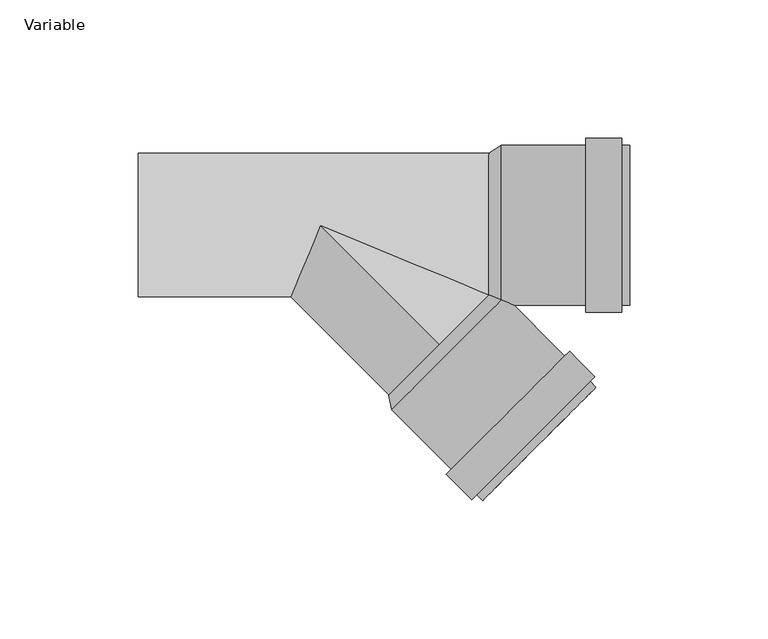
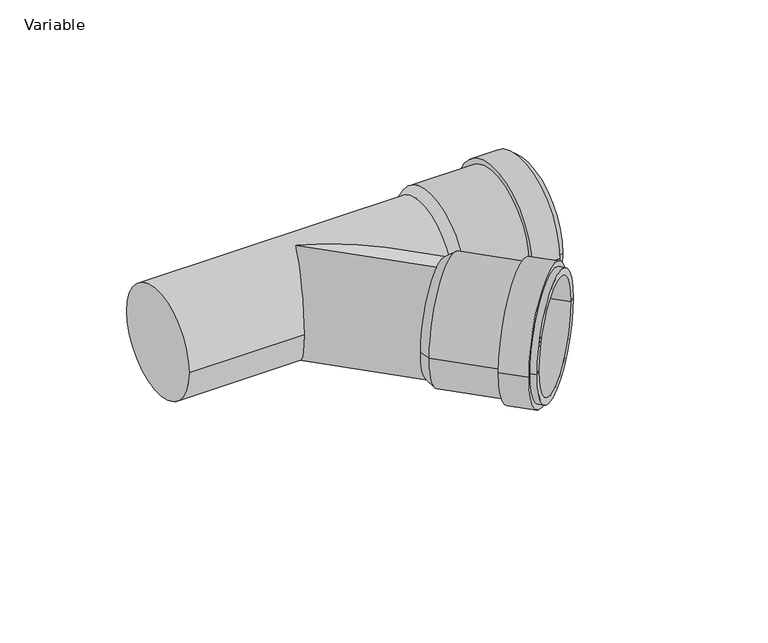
"""IFC4 building model written with IfcOpenShell, lengths in millimetres: pipe fitting geometry, AliaxisFR_Friaphon_Branch_FR : Variable."""

import ifcopenshell
import ifcopenshell.guid

model = None  # the IFC model being written
_history = None  # IfcOwnerHistory: only IFC2X3 demands one
_inside = {}  # id of a spatial element -> (the spatial element, [elements in it])
_under = {}  # id of a project, library or spatial element -> (it, [spatial elements below it])
_declared = {}  # id of a project -> (the project, [libraries it declares])
_typed = {}  # id of a type object -> (the type object, [elements of that type])
_made_of = {}  # id of a material, layer set ... -> (it, [elements and type objects made of it])


def new_model(schema):
    """Start an empty IFC model of exactly this schema.

    Asked for "IFC4X3", IfcOpenShell would pick the latest addendum, in which some entities
    have other attributes; the version numbers below select the first issue.
    IFC2X3 requires an IfcOwnerHistory on every rooted entity: one is made here for all.
    """
    global model, _history
    if schema == "IFC4X3":
        model = ifcopenshell.file(schema_version=(4, 3, 0, 0))
    else:
        model = ifcopenshell.file(schema=schema)
    _inside.clear()
    _under.clear()
    _declared.clear()
    _typed.clear()
    _made_of.clear()
    _history = None
    if model.schema == "IFC2X3":
        org = make("IfcOrganization", Name="unknown")
        user = make(
            "IfcPersonAndOrganization",
            ThePerson=make("IfcPerson", FamilyName="unknown"),
            TheOrganization=org,
        )
        app = make(
            "IfcApplication",
            ApplicationDeveloper=org,
            Version="unknown",
            ApplicationFullName="unknown",
            ApplicationIdentifier="unknown",
        )
        _history = make(
            "IfcOwnerHistory",
            OwningUser=user,
            OwningApplication=app,
            ChangeAction="ADDED",
            CreationDate=0,
        )
    return model


def make(cls, **values):
    """One entity of the class cls with the attributes given. An attribute that is None is left unset."""
    return model.create_entity(
        cls, **{name: value for name, value in values.items() if value is not None}
    )


def rooted(cls, **values):
    """An entity with a GlobalId (a new one), such as an element, a storey or a relation."""
    return make(cls, GlobalId=ifcopenshell.guid.new(), OwnerHistory=_history, **values)


def si_unit(unit_type, name, prefix=None):
    """IfcSIUnit, for example si_unit("LENGTHUNIT", "METRE", prefix="MILLI")."""
    return make("IfcSIUnit", UnitType=unit_type, Prefix=prefix, Name=name)


def assignment(units):
    """IfcUnitAssignment: the units of a project."""
    return None if units is None else make("IfcUnitAssignment", Units=units)


def point(xyz):
    """IfcCartesianPoint."""
    return None if xyz is None else make("IfcCartesianPoint", Coordinates=xyz)


def direction(xyz):
    """IfcDirection."""
    return None if xyz is None else make("IfcDirection", DirectionRatios=xyz)


def frame(location, z_axis=None, x_axis=None):
    """IfcAxis2Placement3D, a coordinate frame: its origin and axes. An axis left out is left unset."""
    return make(
        "IfcAxis2Placement3D",
        Location=point(location),
        Axis=direction(z_axis),
        RefDirection=direction(x_axis),
    )


def origin():
    """The frame at (0, 0, 0) with its axes left unset."""
    return frame((0.0, 0.0, 0.0))


def place(relative_to, where):
    """IfcLocalPlacement: puts the frame where relative to a parent placement (None: the world)."""
    return make(
        "IfcLocalPlacement", PlacementRelTo=relative_to, RelativePlacement=where
    )


def context(
    kind, dimensions, precision=None, world=None, true_north=None, identifier=None
):
    """IfcGeometricRepresentationContext, for example the 3D "Model" context."""
    return make(
        "IfcGeometricRepresentationContext",
        ContextIdentifier=identifier,
        ContextType=kind,
        CoordinateSpaceDimension=dimensions,
        Precision=precision,
        WorldCoordinateSystem=world,
        TrueNorth=true_north,
    )


def project(units=None, contexts=None):
    """IfcProject with its units and contexts."""
    return rooted(
        "IfcProject",
        Name="project",
        RepresentationContexts=contexts,
        UnitsInContext=assignment(units),
    )


def spatial(cls, under=None, at=None, **own):
    """A site, building, storey or space (cls), placed at a placement, below another one or the project."""
    s = rooted(cls, ObjectPlacement=at, **own)
    if under is not None:
        _under.setdefault(under.id(), (under, []))[1].append(s)
    return s


def polyline(points):
    """IfcPolyline through the points."""
    return make("IfcPolyline", Points=[point(p) for p in points])


def circle_curve(where, radius):
    """IfcCircle in the frame where."""
    return make("IfcCircle", Position=where, Radius=radius)


def ellipse_curve(where, semi_axis1, semi_axis2):
    """IfcEllipse in the frame where."""
    return make(
        "IfcEllipse", Position=where, SemiAxis1=semi_axis1, SemiAxis2=semi_axis2
    )


def shape(context_of_items, identifier, shape_type, items):
    """IfcShapeRepresentation: the items that make up one representation, for example the "Body"."""
    return make(
        "IfcShapeRepresentation",
        ContextOfItems=context_of_items,
        RepresentationIdentifier=identifier,
        RepresentationType=shape_type,
        Items=items,
    )


def source(mapping_origin, context_of_items, identifier, shape_type, items):
    """IfcRepresentationMap: a shape defined once, which mapped items show again and again."""
    return make(
        "IfcRepresentationMap",
        MappingOrigin=mapping_origin,
        MappedRepresentation=shape(context_of_items, identifier, shape_type, items),
    )


def transform(
    local_origin,
    x_axis=None,
    y_axis=None,
    z_axis=None,
    scale=None,
    scale2=None,
    scale3=None,
    uniform=True,
):
    """IfcCartesianTransformationOperator3D, or its non-uniform kind. x_axis, y_axis, z_axis: its Axis1, 2, 3."""
    if uniform:
        return make(
            "IfcCartesianTransformationOperator3D",
            Axis1=direction(x_axis),
            Axis2=direction(y_axis),
            LocalOrigin=point(local_origin),
            Scale=scale,
            Axis3=direction(z_axis),
        )
    return make(
        "IfcCartesianTransformationOperator3DnonUniform",
        Axis1=direction(x_axis),
        Axis2=direction(y_axis),
        LocalOrigin=point(local_origin),
        Scale=scale,
        Axis3=direction(z_axis),
        Scale2=scale2,
        Scale3=scale3,
    )


def mapped(mapping_source, mapping_target):
    """IfcMappedItem: shows the shape of a source again, moved by a transform."""
    return make(
        "IfcMappedItem", MappingSource=mapping_source, MappingTarget=mapping_target
    )


def made_of(thing, what):
    """Note that an element or type object is made of a material, layer set ...; save() writes the relation."""
    if what is not None:
        _made_of.setdefault(what.id(), (what, []))[1].append(thing)
    return thing


def element(
    cls,
    number,
    at=None,
    inside=None,
    cuts=None,
    type_object=None,
    material=None,
    context=None,
    identifier="Body",
    shape_type=None,
    held_by="IfcProductDefinitionShape",
    body=None,
    shapes=None,
    **own,
):
    """One element of the class cls, such as IfcWall. Its Tag is "e" and its number.

    at: its placement. inside: the storey or other place that contains it. cuts: it is an
    opening in that element (IfcRelVoidsElement). A single representation is given by context,
    identifier, shape_type and body (its items); several are given by shapes. held_by: the class
    of the entity that holds the representations. save() writes the other relations.
    """
    e = rooted(cls, Tag="e%d" % number, ObjectPlacement=at, **own)
    if body is not None:
        shapes = [shape(context, identifier, shape_type, body)]
    if shapes is not None:
        e.Representation = make(held_by, Representations=shapes)
    if inside is not None:
        _inside.setdefault(inside.id(), (inside, []))[1].append(e)
    if cuts is not None:
        rooted(
            "IfcRelVoidsElement", RelatingBuildingElement=cuts, RelatedOpeningElement=e
        )
    if type_object is not None:
        _typed.setdefault(type_object.id(), (type_object, []))[1].append(e)
    return made_of(e, material)


def aggregate(whole, parts):
    """IfcRelAggregates: a whole, such as a stair, and the parts it consists of."""
    return rooted("IfcRelAggregates", RelatingObject=whole, RelatedObjects=parts)


def save(model, path):
    """Write the relations noted so far, then the file.

    IfcRelAggregates (storeys below a building ...), IfcRelContainedInSpatialStructure (elements
    in a storey), IfcRelDefinesByType, IfcRelAssociatesMaterial and IfcRelDeclares: one each for
    every whole, place, type object, material and project.
    """
    for whole, parts in _under.values():
        aggregate(whole, parts)
    for where, things in _inside.values():
        rooted(
            "IfcRelContainedInSpatialStructure",
            RelatedElements=things,
            RelatingStructure=where,
        )
    for kind, things in _typed.values():
        rooted("IfcRelDefinesByType", RelatedObjects=things, RelatingType=kind)
    for what, things in _made_of.values():
        rooted("IfcRelAssociatesMaterial", RelatedObjects=things, RelatingMaterial=what)
    for by, libraries in _declared.values():
        rooted("IfcRelDeclares", RelatingContext=by, RelatedDefinitions=libraries)
    model.write(path)


def plane_surface(at):
    """IfcPlane: the flat surface through the origin of the frame at, square to its z axis."""
    return make("IfcPlane", Position=at)


def cylinder_surface(at, radius):
    """IfcCylindricalSurface: all points at the distance radius from the z axis of the frame at."""
    return make("IfcCylindricalSurface", Position=at, Radius=radius)


def revolved_surface(curve, axis_point, axis_direction):
    """IfcSurfaceOfRevolution: the curve turned about the line through axis_point along axis_direction."""
    return make(
        "IfcSurfaceOfRevolution",
        SweptCurve=make("IfcArbitraryOpenProfileDef", ProfileType="CURVE", Curve=curve),
        AxisPosition=make("IfcAxis1Placement", Location=point(axis_point), Axis=direction(axis_direction)),
    )


def advanced_brep(points, edges, surfaces, faces):
    """IfcAdvancedBrep: a solid bounded by faces that lie on surfaces and meet in shared edges.

    An edge is (start, end): straight between two places in points (the first is 0);
    or (start, end, curve); or (start, end, curve, False) where it runs against its curve.
    A face is (place in surfaces, loops), or (place, loops, False) where it looks against
    its surface's normal. A loop lists edges by number (the first is 1), with a minus sign
    where the edge is run from its end to its start. The first loop is the outer one.
    """
    corners = [point(p) for p in points]
    vertices = [make("IfcVertexPoint", VertexGeometry=c) for c in corners]
    made = []
    for start, end, *more in edges:
        made.append(
            make(
                "IfcEdgeCurve",
                EdgeStart=vertices[start],
                EdgeEnd=vertices[end],
                EdgeGeometry=more[0] if more else make("IfcPolyline", Points=[corners[start], corners[end]]),
                SameSense=more[1] if len(more) > 1 else True,
            )
        )
    hull = []
    for where, loops, *sense in faces:
        bounds = []
        for j, loop in enumerate(loops):
            ring = [make("IfcOrientedEdge", EdgeElement=made[abs(k) - 1], Orientation=k > 0) for k in loop]
            bounds.append(
                make(
                    "IfcFaceOuterBound" if j == 0 else "IfcFaceBound",
                    Bound=make("IfcEdgeLoop", EdgeList=ring),
                    Orientation=True,
                )
            )
        hull.append(make("IfcAdvancedFace", Bounds=bounds, FaceSurface=surfaces[where], SameSense=sense[0] if sense else True))
    return make("IfcAdvancedBrep", Outer=make("IfcClosedShell", CfsFaces=hull))


def variable_ae3fa9f9(model_context):
    return source(origin(), model_context, "Body", "AdvancedBrep", [
        advanced_brep(
        [(58.6898628, -99.7020561, 0.0), (99.7020561, -58.6898628, 0.0), (97.5807358, -60.8111832, 0.0), (60.8111832, -97.5807358, 0.0), (45.6083874, -90.1561146, 0.0), (90.1561146, -45.6083874, 0.0), (99.3485028, -54.8007755, 0.0), (54.8007755, -99.3485028, 0.0), (47.3761543, -88.3883476, 0.0), (88.3883476, -47.3761543, 0.0), (25.8093975, -66.8215908, 0.0), (66.8215908, -25.8093975, 0.0), (61.51829, -24.7487373, 0.0), (24.7487373, -61.51829, 0.0), (56.5685425, -97.5807358, 0.0), (97.5807358, -56.5685425, 0.0)],
        [
            (0, 1, circle_curve(frame((79.1959595, -79.1959595, 0.0), z_axis=(0.7071067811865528, -0.7071067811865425, 0.0), x_axis=(0.7071067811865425, 0.7071067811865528, 0.0)), 29.0)),
            (1, 2),
            (2, 3, circle_curve(frame((79.1959595, -79.1959595, 0.0), z_axis=(-0.7071067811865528, 0.7071067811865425, 0.0), x_axis=(0.7071067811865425, 0.7071067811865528, 0.0)), 26.0)),
            (3, 0),
            (1, 0, circle_curve(frame((79.1959595, -79.1959595, 0.0), z_axis=(0.7071067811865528, -0.7071067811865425, 0.0), x_axis=(0.7071067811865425, 0.7071067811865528, 0.0)), 29.0)),
            (3, 2, circle_curve(frame((79.1959595, -79.1959595, 0.0), z_axis=(-0.7071067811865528, 0.7071067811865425, 0.0), x_axis=(0.7071067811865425, 0.7071067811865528, 0.0)), 26.0)),
            (4, 5, circle_curve(frame((67.882251, -67.882251, 0.0), z_axis=(0.7071067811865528, -0.7071067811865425, 0.0), x_axis=(0.7071067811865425, 0.7071067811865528, 0.0)), 31.5)),
            (5, 6),
            (6, 7, circle_curve(frame((77.0746391, -77.0746391, 0.0), z_axis=(-0.7071067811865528, 0.7071067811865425, 0.0), x_axis=(0.7071067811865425, 0.7071067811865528, 0.0)), 31.5)),
            (7, 4),
            (5, 4, circle_curve(frame((67.882251, -67.882251, 0.0), z_axis=(0.7071067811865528, -0.7071067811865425, 0.0), x_axis=(0.7071067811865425, 0.7071067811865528, 0.0)), 31.5)),
            (7, 6, circle_curve(frame((77.0746391, -77.0746391, 0.0), z_axis=(-0.7071067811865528, 0.7071067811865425, 0.0), x_axis=(0.7071067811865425, 0.7071067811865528, 0.0)), 31.5)),
            (8, 9, circle_curve(frame((67.882251, -67.882251, 0.0), z_axis=(0.7071067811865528, -0.7071067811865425, 0.0), x_axis=(0.7071067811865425, 0.7071067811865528, 0.0)), 29.0)),
            (9, 5),
            (4, 8),
            (9, 8, circle_curve(frame((67.882251, -67.882251, 0.0), z_axis=(0.7071067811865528, -0.7071067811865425, 0.0), x_axis=(0.7071067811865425, 0.7071067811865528, 0.0)), 29.0)),
            (10, 11, circle_curve(frame((46.3154942, -46.3154942, 0.0), z_axis=(0.7071067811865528, -0.7071067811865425, 0.0), x_axis=(0.7071067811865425, 0.7071067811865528, 0.0)), 29.0)),
            (11, 9),
            (8, 10),
            (11, 10, circle_curve(frame((46.3154942, -46.3154942, 0.0), z_axis=(0.7071067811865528, -0.7071067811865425, 0.0), x_axis=(0.7071067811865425, 0.7071067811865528, 0.0)), 29.0)),
            (2, 12),
            (12, 13, circle_curve(frame((43.1335137, -43.1335137, 0.0), z_axis=(-0.7071067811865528, 0.7071067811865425, 0.0), x_axis=(0.7071067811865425, 0.7071067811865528, 0.0)), 26.0)),
            (13, 3),
            (13, 12, circle_curve(frame((43.1335137, -43.1335137, 0.0), z_axis=(-0.7071067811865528, 0.7071067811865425, 0.0), x_axis=(0.7071067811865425, 0.7071067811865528, 0.0)), 26.0)),
            (12, 11),
            (10, 13),
            (14, 15, circle_curve(frame((77.0746391, -77.0746391, 0.0), z_axis=(0.7071067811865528, -0.7071067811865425, 0.0), x_axis=(0.7071067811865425, 0.7071067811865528, 0.0)), 29.0)),
            (15, 1),
            (0, 14),
            (15, 14, circle_curve(frame((77.0746391, -77.0746391, 0.0), z_axis=(0.7071067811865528, -0.7071067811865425, 0.0), x_axis=(0.7071067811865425, 0.7071067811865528, 0.0)), 29.0)),
            (6, 15),
            (14, 7),
        ],
        [
            plane_surface(frame((79.1959595, -79.1959595, 0.0), z_axis=(0.7071067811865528, -0.7071067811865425, 0.0), x_axis=(0.7071067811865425, 0.7071067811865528, 0.0))),
            cylinder_surface(frame((43.1335137, -43.1335137, 0.0), z_axis=(-0.7071067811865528, 0.7071067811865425, 0.0), x_axis=(0.7071067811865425, 0.7071067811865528, 0.0)), 31.5),
            plane_surface(frame((67.882251, -67.882251, 0.0), z_axis=(-0.7071067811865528, 0.7071067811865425, 0.0), x_axis=(0.7071067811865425, 0.7071067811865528, 0.0))),
            cylinder_surface(frame((43.1335137, -43.1335137, 0.0), z_axis=(-0.7071067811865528, 0.7071067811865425, 0.0), x_axis=(0.7071067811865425, 0.7071067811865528, 0.0)), 29.0),
            revolved_surface(polyline([(61.51828996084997, -24.748737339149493, 0.0), (97.58073581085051, -60.8111831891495, 0.0)]), (43.1335137, -43.1335137, 0.0), (-0.7071067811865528, 0.7071067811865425, 0.0)),
            revolved_surface(polyline([(66.8215908, -25.8093975, 0.0), (61.51829, -24.7487373, 0.0)]), (43.1335137, -43.1335137, 0.0), (-0.7071067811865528, 0.7071067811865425, 0.0)),
            plane_surface(frame((77.0746391, -77.0746391, 0.0), z_axis=(0.7071067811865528, -0.7071067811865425, 0.0), x_axis=(0.7071067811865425, 0.7071067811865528, 0.0))),
        ],
        [
            (0, [[1, 2, 3, 4]]),
            (0, [[5, -4, 6, -2]]),
            (1, [[7, 8, 9, 10]]),
            (1, [[11, -10, 12, -8]]),
            (2, [[13, 14, -7, 15]]),
            (2, [[16, -15, -11, -14]]),
            (3, [[17, 18, -13, 19]]),
            (3, [[20, -19, -16, -18]]),
            (4, [[-3, 21, 22, 23]]),
            (4, [[-6, -23, 24, -21]]),
            (5, [[-22, 25, -17, 26]]),
            (5, [[-24, -26, -20, -25]]),
            (3, [[27, 28, -1, 29]]),
            (3, [[30, -29, -5, -28]]),
            (6, [[-9, 31, -27, 32]]),
            (6, [[-12, -32, -30, -31]]),
        ],
    ),
        advanced_brep(
        [(112.0, -29.0, 0.0), (112.0, 29.0, 0.0), (112.0, 26.0, 0.0), (112.0, -26.0, 0.0), (96.0, -31.5, 0.0), (96.0, 31.5, 0.0), (109.0, 31.5, 0.0), (109.0, -31.5, 0.0), (96.0, -29.0, 0.0), (96.0, 29.0, 0.0), (65.5, -29.0, 0.0), (65.5, 29.0, 0.0), (61.0, 26.0, 0.0), (61.0, -26.0, 0.0), (109.0, -29.0, 0.0), (109.0, 29.0, 0.0)],
        [
            (0, 1, circle_curve(frame((112.0, 0.0, 0.0), z_axis=(1.0, 0.0, 0.0), x_axis=(0.0, 1.0, 0.0)), 29.0)),
            (1, 2),
            (2, 3, circle_curve(frame((112.0, 0.0, 0.0), z_axis=(-1.0, 0.0, 0.0), x_axis=(0.0, 1.0, 0.0)), 26.0)),
            (3, 0),
            (1, 0, circle_curve(frame((112.0, 0.0, 0.0), z_axis=(1.0, 0.0, 0.0), x_axis=(0.0, 1.0, 0.0)), 29.0)),
            (3, 2, circle_curve(frame((112.0, 0.0, 0.0), z_axis=(-1.0, 0.0, 0.0), x_axis=(0.0, 1.0, 0.0)), 26.0)),
            (4, 5, circle_curve(frame((96.0, 0.0, 0.0), z_axis=(1.0, 0.0, 0.0), x_axis=(0.0, 1.0, 0.0)), 31.5)),
            (5, 6),
            (6, 7, circle_curve(frame((109.0, 0.0, 0.0), z_axis=(-1.0, 0.0, 0.0), x_axis=(0.0, 1.0, 0.0)), 31.5)),
            (7, 4),
            (5, 4, circle_curve(frame((96.0, 0.0, 0.0), z_axis=(1.0, 0.0, 0.0), x_axis=(0.0, 1.0, 0.0)), 31.5)),
            (7, 6, circle_curve(frame((109.0, 0.0, 0.0), z_axis=(-1.0, 0.0, 0.0), x_axis=(0.0, 1.0, 0.0)), 31.5)),
            (8, 9, circle_curve(frame((96.0, 0.0, 0.0), z_axis=(1.0, 0.0, 0.0), x_axis=(0.0, 1.0, 0.0)), 29.0)),
            (9, 5),
            (4, 8),
            (9, 8, circle_curve(frame((96.0, 0.0, 0.0), z_axis=(1.0, 0.0, 0.0), x_axis=(0.0, 1.0, 0.0)), 29.0)),
            (10, 11, circle_curve(frame((65.5, 0.0, 0.0), z_axis=(1.0, 0.0, 0.0), x_axis=(0.0, 1.0, 0.0)), 29.0)),
            (11, 9),
            (8, 10),
            (11, 10, circle_curve(frame((65.5, 0.0, 0.0), z_axis=(1.0, 0.0, 0.0), x_axis=(0.0, 1.0, 0.0)), 29.0)),
            (2, 12),
            (12, 13, circle_curve(frame((61.0, 0.0, 0.0), z_axis=(-1.0, 0.0, 0.0), x_axis=(0.0, 1.0, 0.0)), 26.0)),
            (13, 3),
            (13, 12, circle_curve(frame((61.0, 0.0, 0.0), z_axis=(-1.0, 0.0, 0.0), x_axis=(0.0, 1.0, 0.0)), 26.0)),
            (12, 11),
            (10, 13),
            (14, 15, circle_curve(frame((109.0, 0.0, 0.0), z_axis=(1.0, 0.0, 0.0), x_axis=(0.0, 1.0, 0.0)), 29.0)),
            (15, 1),
            (0, 14),
            (15, 14, circle_curve(frame((109.0, 0.0, 0.0), z_axis=(1.0, 0.0, 0.0), x_axis=(0.0, 1.0, 0.0)), 29.0)),
            (6, 15),
            (14, 7),
        ],
        [
            plane_surface(frame((112.0, 0.0, 0.0), z_axis=(1.0, 0.0, 0.0), x_axis=(0.0, 1.0, 0.0))),
            cylinder_surface(frame((61.0, 0.0, 0.0), z_axis=(-1.0, 0.0, 0.0), x_axis=(0.0, 1.0, 0.0)), 31.5),
            plane_surface(frame((96.0, 0.0, 0.0), z_axis=(-1.0, 0.0, 0.0), x_axis=(0.0, 1.0, 0.0))),
            cylinder_surface(frame((61.0, 0.0, 0.0), z_axis=(-1.0, 0.0, 0.0), x_axis=(0.0, 1.0, 0.0)), 29.0),
            revolved_surface(polyline([(61.0, 26.0, 0.0), (112.0, 26.0, 0.0)]), (61.0, 0.0, 0.0), (-1.0, 0.0, 0.0)),
            revolved_surface(polyline([(65.5, 29.0, 0.0), (61.0, 26.0, 0.0)]), (61.0, 0.0, 0.0), (-1.0, 0.0, 0.0)),
            plane_surface(frame((109.0, 0.0, 0.0), z_axis=(1.0, 0.0, 0.0), x_axis=(0.0, 1.0, 0.0))),
        ],
        [
            (0, [[1, 2, 3, 4]]),
            (0, [[5, -4, 6, -2]]),
            (1, [[7, 8, 9, 10]]),
            (1, [[11, -10, 12, -8]]),
            (2, [[13, 14, -7, 15]]),
            (2, [[16, -15, -11, -14]]),
            (3, [[17, 18, -13, 19]]),
            (3, [[20, -19, -16, -18]]),
            (4, [[-3, 21, 22, 23]]),
            (4, [[-6, -23, 24, -21]]),
            (5, [[-22, 25, -17, 26]]),
            (5, [[-24, -26, -20, -25]]),
            (3, [[27, 28, -1, 29]]),
            (3, [[30, -29, -5, -28]]),
            (6, [[-9, 31, -27, 32]]),
            (6, [[-12, -32, -30, -31]]),
        ],
    ),
        advanced_brep(
        [(64.0, -26.0, 0.0), (64.0, 26.0, 0.0), (-66.0, -26.0, 0.0), (-66.0, 26.0, 0.0), (62.7695526, -26.0, 0.0), (0.0, 0.0, -26.0), (-10.7695526, -26.0, 0.0), (0.0, 0.0, 26.0), (45.254834, -45.254834, -26.0), (45.254834, -45.254834, 26.0)],
        [
            (0, 1, circle_curve(frame((64.0, 0.0, 0.0), z_axis=(1.0, 0.0, 0.0), x_axis=(0.0, 1.0, 0.0)), 26.0)),
            (1, 0, circle_curve(frame((64.0, 0.0, 0.0), z_axis=(1.0, 0.0, 0.0), x_axis=(0.0, 1.0, 0.0)), 26.0)),
            (2, 3, circle_curve(frame((-66.0, 0.0, 0.0), z_axis=(-1.0, 0.0, 0.0), x_axis=(0.0, 1.0, 0.0)), 26.0)),
            (3, 2, circle_curve(frame((-66.0, 0.0, 0.0), z_axis=(-1.0, 0.0, 0.0), x_axis=(0.0, 1.0, 0.0)), 26.0)),
            (0, 4),
            (4, 5, ellipse_curve(frame((0.0, 0.0, 0.0), z_axis=(0.3826834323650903, 0.9238795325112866, 0.0), x_axis=(0.9238795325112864, -0.3826834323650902, 0.0)), 67.9412742, 26.0)),
            (5, 6, ellipse_curve(frame((0.0, 0.0, 0.0), z_axis=(-0.9238795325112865, 0.3826834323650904, 0.0), x_axis=(0.3826834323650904, 0.9238795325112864, 0.0)), 28.1421972, 26.0)),
            (6, 2),
            (3, 1),
            (6, 7, ellipse_curve(frame((0.0, 0.0, 0.0), z_axis=(-0.9238795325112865, 0.3826834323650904, 0.0), x_axis=(0.3826834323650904, 0.9238795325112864, 0.0)), 28.1421972, 26.0)),
            (7, 4, ellipse_curve(frame((0.0, 0.0, 0.0), z_axis=(0.3826834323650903, 0.9238795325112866, 0.0), x_axis=(0.9238795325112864, -0.3826834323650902, 0.0)), 67.9412742, 26.0)),
            (8, 9, circle_curve(frame((45.254834, -45.254834, 0.0), z_axis=(0.7071067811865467, -0.7071067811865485, 0.0), x_axis=(0.0, 0.0, 1.0)), 26.0)),
            (9, 8, circle_curve(frame((45.254834, -45.254834, 0.0), z_axis=(0.7071067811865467, -0.7071067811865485, 0.0), x_axis=(0.0, 0.0, 1.0)), 26.0)),
            (8, 5),
            (7, 9),
        ],
        [
            plane_surface(frame((64.0, 26.0, 0.0), z_axis=(1.0, 0.0, 0.0), x_axis=(0.0, 0.0, 1.0))),
            plane_surface(frame((-66.0, 26.0, 0.0), z_axis=(-1.0, 0.0, 0.0), x_axis=(0.0, 0.0, -1.0))),
            cylinder_surface(frame((-66.0, 0.0, 0.0), z_axis=(1.0, 0.0, 0.0), x_axis=(0.0, 1.0, 0.0)), 26.0),
            plane_surface(frame((45.254834, -45.254834, 26.0), z_axis=(0.7071067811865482, -0.7071067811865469, 0.0), x_axis=(-0.7071067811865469, -0.7071067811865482, 0.0))),
            cylinder_surface(frame((45.254834, -45.254834, 0.0), z_axis=(-0.7071067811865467, 0.7071067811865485, 0.0), x_axis=(0.0, 0.0, 1.0)), 26.0),
        ],
        [
            (0, [[1, 2]]),
            (1, [[3, 4]]),
            (2, [[-1, 5, 6, 7, 8, -4, 9]]),
            (2, [[-2, -9, -3, -8, 10, 11, -5]]),
            (3, [[12, 13]]),
            (4, [[-12, 14, -6, -11, 15]]),
            (4, [[-13, -15, -10, -7, -14]]),
        ],
    ),
    ])


if __name__ == "__main__":
    model = new_model("IFC4")
    model_context = context("Model", 3, world=origin())
    ifc_project = project(units=[si_unit("LENGTHUNIT", "METRE", prefix="MILLI")], contexts=[model_context])
    site = spatial("IfcSite", under=ifc_project)
    building = spatial("IfcBuilding", under=site)
    placement = place(None, origin())
    variable_shape = variable_ae3fa9f9(model_context)
    element("IfcPipeFitting", 1, ObjectType="AliaxisFR_Friaphon_Branch_FR : Variable", at=placement, inside=building, context=model_context, shape_type="MappedRepresentation", body=[
        mapped(variable_shape, transform((0.0, 0.0, 0.0), x_axis=(1.0, 0.0, 0.0), y_axis=(0.0, 1.0, 0.0), z_axis=(0.0, 0.0, 1.0))),
    ])
    save(model, "model.ifc")
